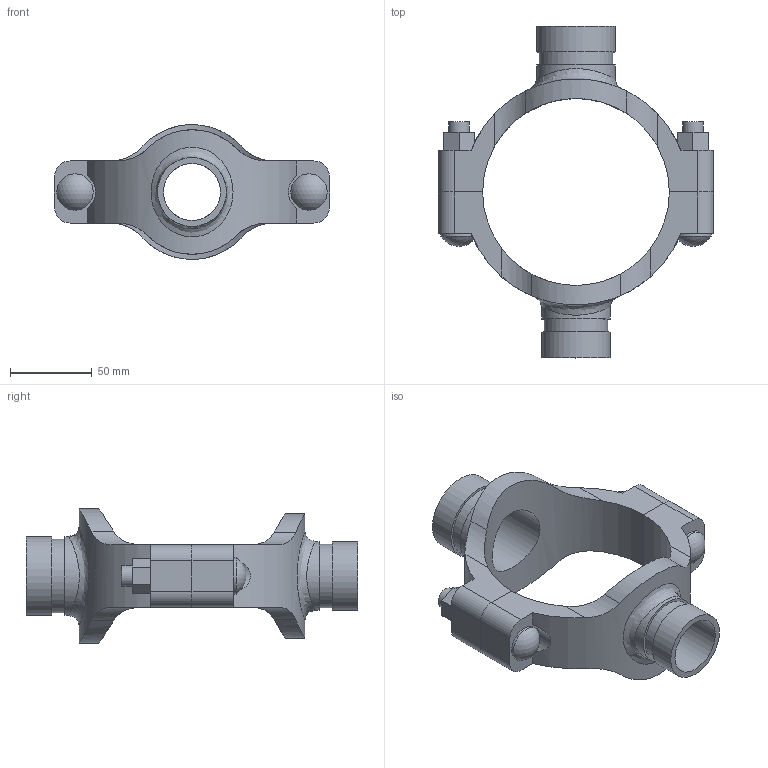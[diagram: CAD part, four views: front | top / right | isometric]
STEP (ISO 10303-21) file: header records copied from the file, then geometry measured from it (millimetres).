
FILE_DESCRIPTION(/* description */ ('VIC MECH-T BRANCH OUTLET CROSS STYLE 920N (GRVD)','CAx-IF Rec.Pracs.---Representation and Presentation of Product Manufacturing Information (PMI)---4.0---2014-10-13'),/* implementation_level */ '2;1');
FILE_NAME(/* name */ 'C:\Users\Vjadhav\AppData\Roaming\Autodesk\ApplicationPlugins\Back Up\Victaulic_IPS_Mechanical-Cross Outlet_Style 920N (OGS)\Victaulic_IPS_Mechanical-Cross Outlet_04.0x01.5x01.25 (100x40x32).stp',/* time_stamp */ '2020-08-06T19:43:43+05:00',/* author */ ('Vjadhav'),/* organization */ ('Victaulic'),/* preprocessor_version */ 'ST-DEVELOPER v17.2',/* originating_system */ 'Autodesk Inventor 2019',/* authorisation */ '');
FILE_SCHEMA (('AP242_MANAGED_MODEL_BASED_3D_ENGINEERING_MIM_LF { 1 0 10303 442 1 1 4 }'));
Length unit declared in the file: inch
Products named in the file (3): 920NG-04.0x01.5x01.25; 920NG-04.0x01.5; 920NG-04.0x01.25
Assembly tree (2 placements, depth 2):
  920NG-04.0x01.5x01.25
    920NG-04.0x01.5
    920NG-04.0x01.25
Bounding box: 168.4 x 203.2 x 82.41 mm (x, y, z)
Volume: 296522.6 mm3; surface area: 87447.6 mm2
Topology: 2 solids, 2 shells, 108 faces, 274 edges, 186 vertices
Faces by surface type: plane 54, cylinder 50, sphere 2, bspline 2
Full cylindrical faces by diameter (mm): 12.7 x4, 22.225 x2, 34.925 x1, 38.989 x1, 41.275 x1, 42.164 x2, 45.085 x1, 48.26 x2
Entity records: 4310 total; most frequent: CARTESIAN_POINT 1429, DIRECTION 552, ORIENTED_EDGE 548, EDGE_CURVE 274, AXIS2_PLACEMENT_3D 201, VERTEX_POINT 186, LINE 150, VECTOR 150
